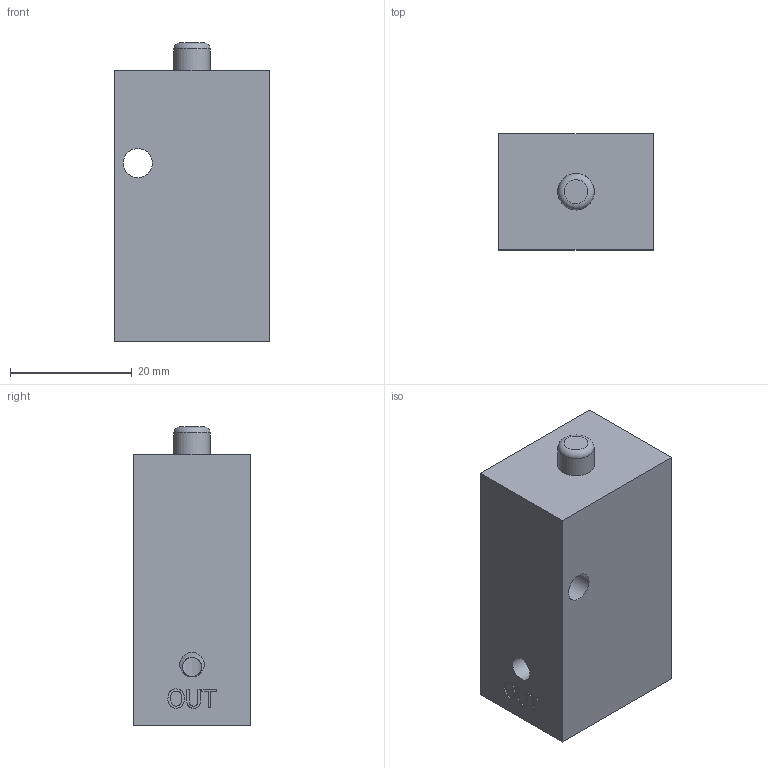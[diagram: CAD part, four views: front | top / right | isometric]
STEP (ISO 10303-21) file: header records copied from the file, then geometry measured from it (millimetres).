
FILE_DESCRIPTION(/* description */ (''),/* implementation_level */ '2;1');
FILE_NAME(/* name */ 'L:\ALADCO\Advertising\3D Content\Valves\Step Files - 2014-11-19 thru Present\40320X.stp',/* time_stamp */ '2014-11-19T15:01:54-06:00',/* author */ ('dmatz'),/* organization */ (''),/* preprocessor_version */ 'ST-DEVELOPER v15.2',/* originating_system */ 'Autodesk Inventor 2014',/* authorisation */ '');
FILE_SCHEMA (('AUTOMOTIVE_DESIGN { 1 0 10303 214 3 1 1 }'));
Length unit declared in the file: inch
Products named in the file (4): 553200UNF; 301172; 301170; 503201
Bounding box: 25.4 x 19.05 x 48.95 mm (x, y, z)
Volume: 18319.5 mm3; surface area: 7933.5 mm2
Topology: 3 solids, 3 shells, 187 faces, 470 edges, 310 vertices
Faces by surface type: plane 104, bspline 44, cylinder 23, torus 12, cone 4
Full cylindrical faces by diameter (mm): 1.168 x1, 2.946 x1, 3.175 x4, 4.039 x3, 4.762 x2, 5.944 x2, 5.994 x1, 6.68 x1, 7.112 x1, 8.56 x2, 9.55 x1, 11.049 x3, 11.1 x1
Entity records: 6106 total; most frequent: CARTESIAN_POINT 2008, ORIENTED_EDGE 830, DIRECTION 664, EDGE_CURVE 415, VERTEX_POINT 297, EDGE_LOOP 268, LINE 266, VECTOR 266
